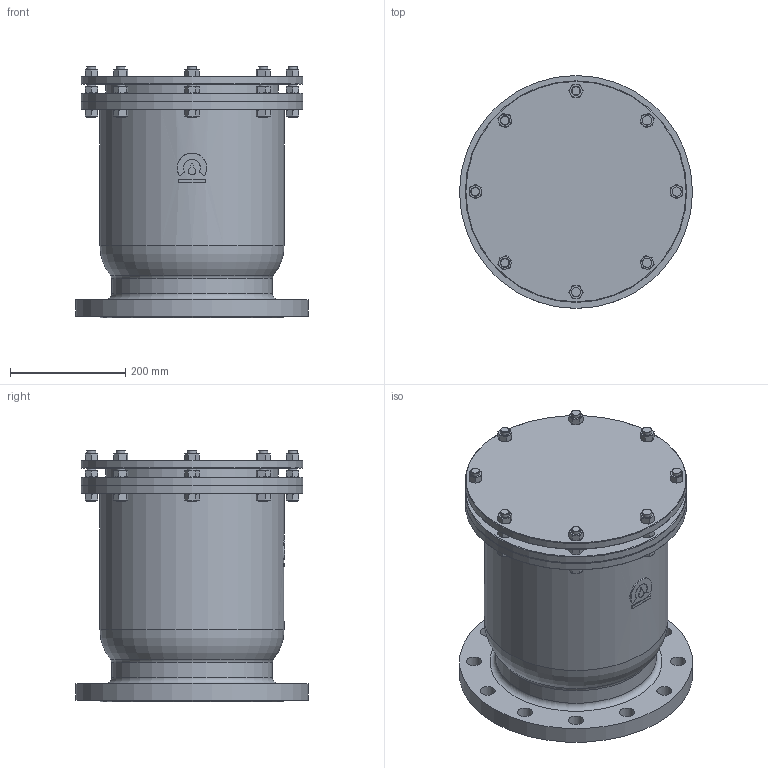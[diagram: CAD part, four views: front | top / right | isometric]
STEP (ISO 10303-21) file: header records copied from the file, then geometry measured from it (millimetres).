
FILE_DESCRIPTION(('STEP AP203'), '1');
FILE_NAME('Òèï A10F - Âîçäóõîîòâîä÷èê îäíîêàìåðíûé DN250', '', ('UNSPECIFIED'), ('UNSPECIFIED'), 'ASCON STEP Converter 1.6', 'ASCON Math Kernel', '');
FILE_SCHEMA(('CONFIG_CONTROL_DESIGN'));
Length unit declared in the file: millimetre
Products named in the file (1): Тип A10F
Bounding box: 405 x 405 x 438 mm (x, y, z)
Volume: 27128395.5 mm3; surface area: 1043014 mm2
Topology: 1 solids, 1 shells, 556 faces, 1209 edges, 706 vertices
Faces by surface type: cone 297, plane 204, cylinder 52, torus 3
Full cylindrical faces by diameter (mm): 16 x24, 26 x12, 250 x1, 280 x1, 300 x1, 320 x1, 383 x1, 385 x3, 405 x1
Entity records: 32137 total; most frequent: CARTESIAN_POINT 16608, ORIENTED_EDGE 2304, DIRECTION 2081, EDGE_CURVE 1152, AXIS2_PLACEMENT_3D 957, VERTEX_POINT 706, EDGE_LOOP 704, FACE_BOUND 590
